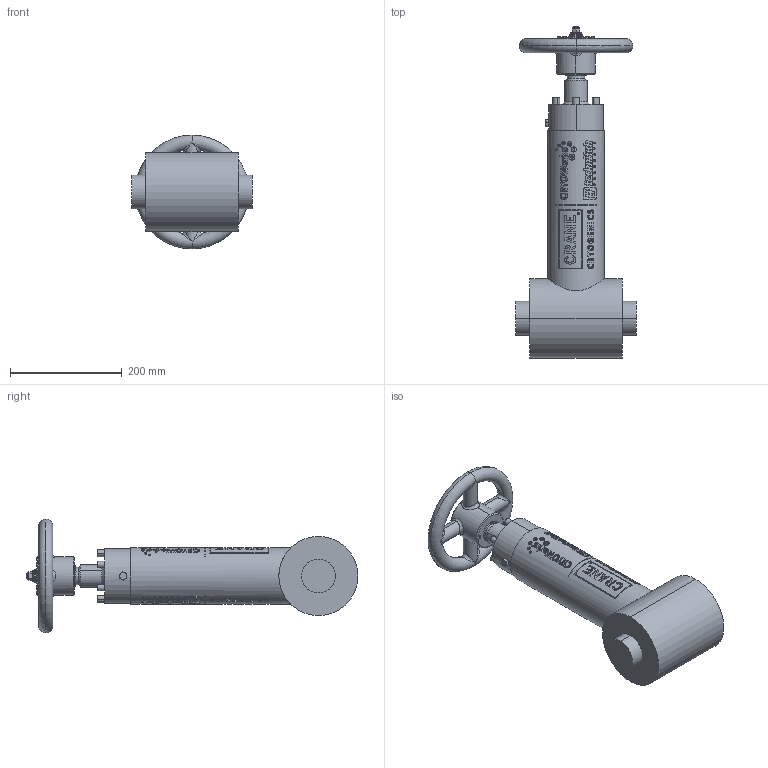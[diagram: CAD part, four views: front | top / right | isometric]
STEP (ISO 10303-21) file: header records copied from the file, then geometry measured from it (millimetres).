
FILE_DESCRIPTION (( 'STEP AP203' ), '1' );
FILE_NAME ('2IN T-PATTERN MANUAL CRANE BELLOWS SEAL VALVE.step', '2025-12-17T20:06:51', ( '' ), ( '' ), 'SwSTEP 2.0', 'SolidWorks 2023', '' );
FILE_SCHEMA (( 'CONFIG_CONTROL_DESIGN' ));
Length unit declared in the file: inch
Products named in the file (1): 2IN T-PATTERN MANUAL CRANE BELLOWS SEAL VALVE
Bounding box: 215.9 x 593.01 x 203.2 mm (x, y, z)
Volume: 5952618.1 mm3; surface area: 318577.3 mm2
Topology: 1 solids, 1 shells, 1296 faces, 3323 edges, 2188 vertices
Faces by surface type: plane 774, cylinder 347, bspline 125, cone 40, torus 10
Full cylindrical faces by diameter (mm): 1.494 x2, 1.636 x2, 1.778 x2, 2.039 x2, 2.302 x2, 2.967 x2, 3.071 x2, 3.409 x2, 3.632 x2, 3.807 x2, 4.009 x2, 4.573 x2, 6.177 x2, 7.63 x2, 9.232 x2, 10.749 x2, 101.6 x1
Entity records: 68916 total; most frequent: CARTESIAN_POINT 40414, ORIENTED_EDGE 6496, DIRECTION 4907, EDGE_CURVE 3248, VERTEX_POINT 2181, AXIS2_PLACEMENT_3D 1649, LINE 1609, VECTOR 1609
